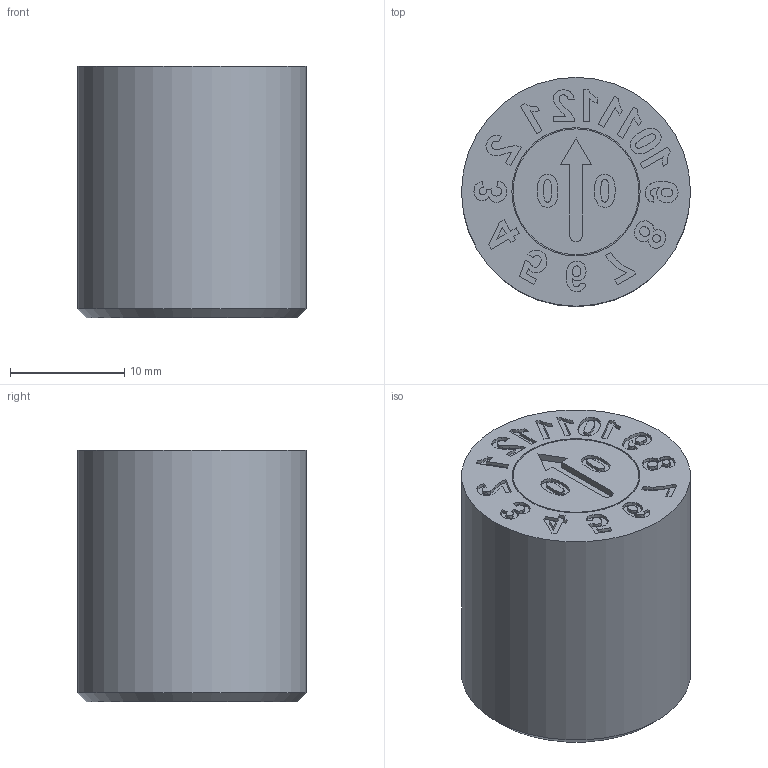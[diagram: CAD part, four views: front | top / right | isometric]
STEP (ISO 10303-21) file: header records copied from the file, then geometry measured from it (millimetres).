
FILE_DESCRIPTION(/* description */ (''),/* implementation_level */ '2;1');
FILE_NAME(/* name */ 'IMC-D2400-MY20.step',/* time_stamp */ '2025-11-05T11:17:55+01:00',/* author */ (''),/* organization */ (''),/* preprocessor_version */ 'ST-DEVELOPER v20.1',/* originating_system */ 'Autodesk Translation Framework v14.17.0.0',/* authorisation */ '');
FILE_SCHEMA (('AUTOMOTIVE_DESIGN { 1 0 10303 214 3 1 1 }'));
Length unit declared in the file: millimetre
Products named in the file (1): D2400-MY20
Bounding box: 20 x 20 x 22 mm (x, y, z)
Volume: 6805.6 mm3; surface area: 2171.9 mm2
Topology: 1 solids, 1 shells, 339 faces, 924 edges, 615 vertices
Faces by surface type: bspline 231, plane 100, cylinder 5, cone 3
Full cylindrical faces by diameter (mm): 4.234 x1, 11 x1, 11.2 x1, 20 x1
Entity records: 12824 total; most frequent: CARTESIAN_POINT 5805, ORIENTED_EDGE 1846, EDGE_CURVE 923, DIRECTION 691, VERTEX_POINT 615, B_SPLINE_CURVE_WITH_KNOTS 462, LINE 449, VECTOR 449
